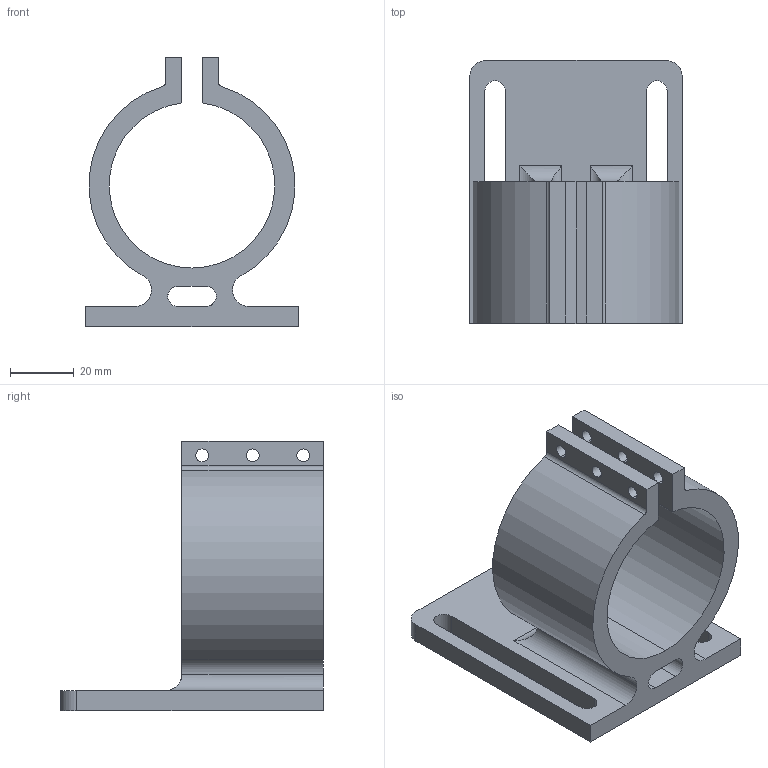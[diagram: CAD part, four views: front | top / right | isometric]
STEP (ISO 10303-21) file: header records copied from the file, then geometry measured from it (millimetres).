
FILE_DESCRIPTION (( 'STEP AP203' ), '1' );
FILE_NAME ('52mm holder.STEP', '2017-10-28T00:37:42', ( '' ), ( '' ), 'SwSTEP 2.0', 'SolidWorks 2016', '' );
FILE_SCHEMA (( 'CONFIG_CONTROL_DESIGN' ));
Length unit declared in the file: inch
Products named in the file (1): 52mm holder
Bounding box: 66.67 x 82.55 x 84.62 mm (x, y, z)
Volume: 86974.6 mm3; surface area: 33431.5 mm2
Topology: 1 solids, 1 shells, 52 faces, 151 edges, 100 vertices
Faces by surface type: cylinder 32, plane 20
Entity records: 1894 total; most frequent: CARTESIAN_POINT 356, DIRECTION 311, ORIENTED_EDGE 302, EDGE_CURVE 151, AXIS2_PLACEMENT_3D 111, VERTEX_POINT 100, LINE 89, VECTOR 89
